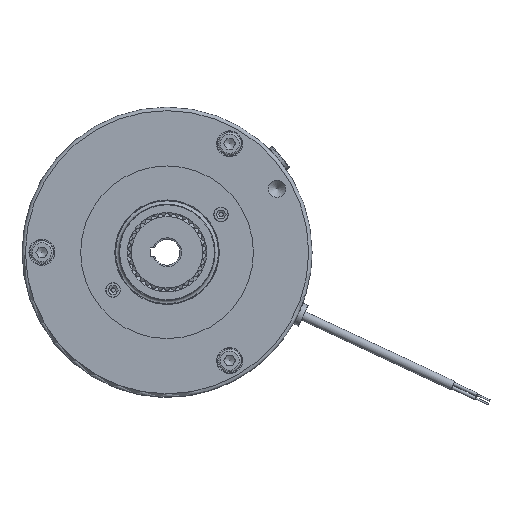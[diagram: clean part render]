
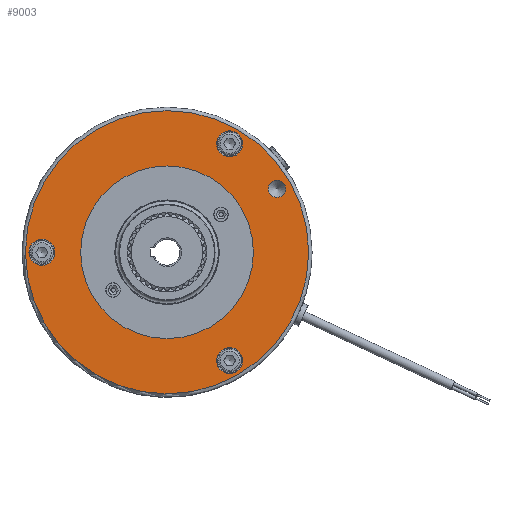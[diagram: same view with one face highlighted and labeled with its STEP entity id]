
A CAD part, left-side view. The second image highlights one B-rep face of the part: STEP entity #9003.
In plain terms, the highlighted planar face has unit normal (-1, 0, 0).
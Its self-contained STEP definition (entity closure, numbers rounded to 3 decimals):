
#700=FACE_BOUND('',#1994,.T.);
#701=FACE_BOUND('',#1995,.T.);
#702=FACE_BOUND('',#1996,.T.);
#703=FACE_BOUND('',#1997,.T.);
#704=FACE_BOUND('',#1998,.T.);
#945=CIRCLE('',#9683,50.);
#946=CIRCLE('',#9684,50.);
#955=CIRCLE('',#9696,7.5);
#956=CIRCLE('',#9697,7.5);
#960=CIRCLE('',#9703,7.5);
#961=CIRCLE('',#9704,7.5);
#965=CIRCLE('',#9710,7.5);
#966=CIRCLE('',#9711,7.5);
#969=CIRCLE('',#9716,82.);
#970=CIRCLE('',#9717,82.);
#971=CIRCLE('',#9718,5.);
#972=CIRCLE('',#9719,5.);
#1504=FACE_OUTER_BOUND('',#1993,.T.);
#1993=EDGE_LOOP('',(#6627,#6628));
#1994=EDGE_LOOP('',(#6629,#6630));
#1995=EDGE_LOOP('',(#6631,#6632));
#1996=EDGE_LOOP('',(#6633,#6634));
#1997=EDGE_LOOP('',(#6635,#6636));
#1998=EDGE_LOOP('',(#6637,#6638));
#3653=VERTEX_POINT('',#14453);
#3654=VERTEX_POINT('',#14454);
#3663=VERTEX_POINT('',#14478);
#3664=VERTEX_POINT('',#14479);
#3668=VERTEX_POINT('',#14491);
#3669=VERTEX_POINT('',#14492);
#3673=VERTEX_POINT('',#14504);
#3674=VERTEX_POINT('',#14505);
#3677=VERTEX_POINT('',#14515);
#3678=VERTEX_POINT('',#14516);
#3679=VERTEX_POINT('',#14519);
#3680=VERTEX_POINT('',#14520);
#4733=EDGE_CURVE('',#3653,#3654,#945,.T.);
#4734=EDGE_CURVE('',#3654,#3653,#946,.T.);
#4745=EDGE_CURVE('',#3663,#3664,#955,.T.);
#4746=EDGE_CURVE('',#3664,#3663,#956,.T.);
#4751=EDGE_CURVE('',#3668,#3669,#960,.T.);
#4752=EDGE_CURVE('',#3669,#3668,#961,.T.);
#4757=EDGE_CURVE('',#3673,#3674,#965,.T.);
#4758=EDGE_CURVE('',#3674,#3673,#966,.T.);
#4762=EDGE_CURVE('',#3677,#3678,#969,.T.);
#4763=EDGE_CURVE('',#3678,#3677,#970,.T.);
#4764=EDGE_CURVE('',#3679,#3680,#971,.T.);
#4765=EDGE_CURVE('',#3680,#3679,#972,.T.);
#6627=ORIENTED_EDGE('',*,*,#4762,.F.);
#6628=ORIENTED_EDGE('',*,*,#4763,.F.);
#6629=ORIENTED_EDGE('',*,*,#4764,.T.);
#6630=ORIENTED_EDGE('',*,*,#4765,.T.);
#6631=ORIENTED_EDGE('',*,*,#4733,.T.);
#6632=ORIENTED_EDGE('',*,*,#4734,.T.);
#6633=ORIENTED_EDGE('',*,*,#4745,.T.);
#6634=ORIENTED_EDGE('',*,*,#4746,.T.);
#6635=ORIENTED_EDGE('',*,*,#4751,.T.);
#6636=ORIENTED_EDGE('',*,*,#4752,.T.);
#6637=ORIENTED_EDGE('',*,*,#4757,.T.);
#6638=ORIENTED_EDGE('',*,*,#4758,.T.);
#8269=PLANE('',#9715);
#9003=ADVANCED_FACE('',(#1504,#700,#701,#702,#703,#704),#8269,.T.);
#9683=AXIS2_PLACEMENT_3D('',#14455,#11274,#11275);
#9684=AXIS2_PLACEMENT_3D('',#14456,#11276,#11277);
#9696=AXIS2_PLACEMENT_3D('',#14480,#11302,#11303);
#9697=AXIS2_PLACEMENT_3D('',#14481,#11304,#11305);
#9703=AXIS2_PLACEMENT_3D('',#14493,#11317,#11318);
#9704=AXIS2_PLACEMENT_3D('',#14494,#11319,#11320);
#9710=AXIS2_PLACEMENT_3D('',#14506,#11332,#11333);
#9711=AXIS2_PLACEMENT_3D('',#14507,#11334,#11335);
#9715=AXIS2_PLACEMENT_3D('',#14514,#11343,#11344);
#9716=AXIS2_PLACEMENT_3D('',#14517,#11345,#11346);
#9717=AXIS2_PLACEMENT_3D('',#14518,#11347,#11348);
#9718=AXIS2_PLACEMENT_3D('',#14521,#11349,#11350);
#9719=AXIS2_PLACEMENT_3D('',#14522,#11351,#11352);
#11274=DIRECTION('center_axis',(1.,0.,0.));
#11275=DIRECTION('ref_axis',(0.,1.,0.));
#11276=DIRECTION('center_axis',(1.,0.,0.));
#11277=DIRECTION('ref_axis',(0.,1.,0.));
#11302=DIRECTION('center_axis',(1.,0.,0.));
#11303=DIRECTION('ref_axis',(0.,0.,1.));
#11304=DIRECTION('center_axis',(1.,0.,0.));
#11305=DIRECTION('ref_axis',(0.,0.,1.));
#11317=DIRECTION('center_axis',(1.,0.,0.));
#11318=DIRECTION('ref_axis',(0.,0.,1.));
#11319=DIRECTION('center_axis',(1.,0.,0.));
#11320=DIRECTION('ref_axis',(0.,0.,1.));
#11332=DIRECTION('center_axis',(1.,0.,0.));
#11333=DIRECTION('ref_axis',(0.,0.,1.));
#11334=DIRECTION('center_axis',(1.,0.,0.));
#11335=DIRECTION('ref_axis',(0.,0.,1.));
#11343=DIRECTION('center_axis',(-1.,0.,0.));
#11344=DIRECTION('ref_axis',(0.,0.,1.));
#11345=DIRECTION('center_axis',(1.,0.,0.));
#11346=DIRECTION('ref_axis',(0.,-1.,0.));
#11347=DIRECTION('center_axis',(1.,0.,0.));
#11348=DIRECTION('ref_axis',(0.,-1.,0.));
#11349=DIRECTION('center_axis',(1.,0.,0.));
#11350=DIRECTION('ref_axis',(0.,0.,1.));
#11351=DIRECTION('center_axis',(1.,0.,0.));
#11352=DIRECTION('ref_axis',(0.,0.,1.));
#14453=CARTESIAN_POINT('',(-66.8,50.,0.));
#14454=CARTESIAN_POINT('',(-66.8,-50.,0.));
#14455=CARTESIAN_POINT('Origin',(-66.8,0.,0.));
#14456=CARTESIAN_POINT('Origin',(-66.8,0.,0.));
#14478=CARTESIAN_POINT('',(-66.8,72.5,7.5));
#14479=CARTESIAN_POINT('',(-66.8,72.5,-7.5));
#14480=CARTESIAN_POINT('Origin',(-66.8,72.5,0.));
#14481=CARTESIAN_POINT('Origin',(-66.8,72.5,0.));
#14491=CARTESIAN_POINT('',(-66.8,-36.25,-55.287));
#14492=CARTESIAN_POINT('',(-66.8,-36.25,-70.287));
#14493=CARTESIAN_POINT('Origin',(-66.8,-36.25,-62.787));
#14494=CARTESIAN_POINT('Origin',(-66.8,-36.25,-62.787));
#14504=CARTESIAN_POINT('',(-66.8,-36.25,70.287));
#14505=CARTESIAN_POINT('',(-66.8,-36.25,55.287));
#14506=CARTESIAN_POINT('Origin',(-66.8,-36.25,62.787));
#14507=CARTESIAN_POINT('Origin',(-66.8,-36.25,62.787));
#14514=CARTESIAN_POINT('Origin',(-66.8,67.,0.));
#14515=CARTESIAN_POINT('',(-66.8,82.,0.));
#14516=CARTESIAN_POINT('',(-66.8,0.,82.));
#14517=CARTESIAN_POINT('Origin',(-66.8,0.,0.));
#14518=CARTESIAN_POINT('Origin',(-66.8,0.,0.));
#14519=CARTESIAN_POINT('',(-66.8,-63.653,41.75));
#14520=CARTESIAN_POINT('',(-66.8,-63.653,31.75));
#14521=CARTESIAN_POINT('Origin',(-66.8,-63.653,36.75));
#14522=CARTESIAN_POINT('Origin',(-66.8,-63.653,36.75));
